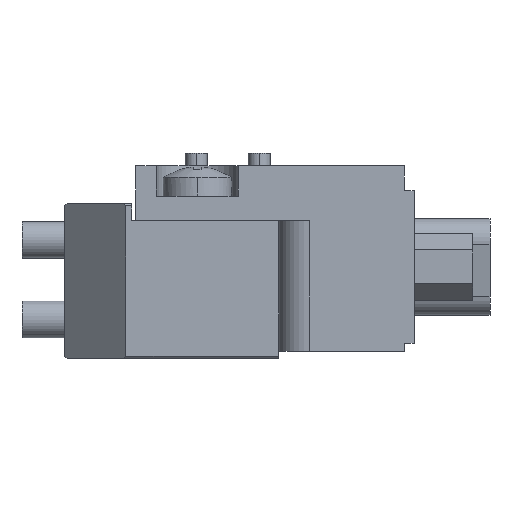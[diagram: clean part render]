
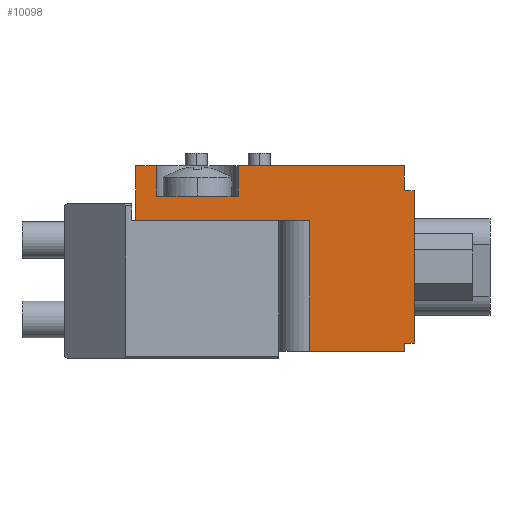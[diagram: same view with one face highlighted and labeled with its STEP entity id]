
A CAD part, left-side view. The second image highlights one B-rep face of the part: STEP entity #10098.
In plain terms, the highlighted planar face has unit normal (-1, 0, 0).
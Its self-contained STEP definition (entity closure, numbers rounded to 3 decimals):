
#32 = EDGE_LOOP ( 'NONE', ( #7946, #4633, #10020, #2968, #7596, #6218, #16519, #19190, #5256, #5812, #16615, #17603, #17454, #11118, #3118, #9269, #1583 ) ) ;
#68 = EDGE_CURVE ( 'NONE', #17962, #9114, #11143, .T. ) ;
#263 = EDGE_CURVE ( 'NONE', #6508, #4982, #10408, .T. ) ;
#626 = VERTEX_POINT ( 'NONE', #18851 ) ;
#642 = VECTOR ( 'NONE', #12589, 1000. ) ;
#709 = EDGE_CURVE ( 'NONE', #5454, #17572, #8656, .T. ) ;
#726 = LINE ( 'NONE', #12656, #642 ) ;
#876 = VERTEX_POINT ( 'NONE', #16703 ) ;
#941 = DIRECTION ( 'NONE',  ( -1., 0., 0. ) ) ;
#1160 = EDGE_CURVE ( 'NONE', #6508, #12593, #6696, .T. ) ;
#1583 = ORIENTED_EDGE ( 'NONE', *, *, #8392, .T. ) ;
#1691 = CARTESIAN_POINT ( 'NONE',  ( -15.15, 5.704, -3.5 ) ) ;
#1731 = EDGE_CURVE ( 'NONE', #5454, #13988, #4936, .T. ) ;
#2074 = DIRECTION ( 'NONE',  ( 0., -1., 0. ) ) ;
#2122 = EDGE_CURVE ( 'NONE', #2219, #13988, #3130, .T. ) ;
#2152 = VECTOR ( 'NONE', #2518, 1000. ) ;
#2182 = CARTESIAN_POINT ( 'NONE',  ( -15.15, 8.15, -3.5 ) ) ;
#2219 = VERTEX_POINT ( 'NONE', #16791 ) ;
#2518 = DIRECTION ( 'NONE',  ( 0., 0., -1. ) ) ;
#2798 = EDGE_CURVE ( 'NONE', #12084, #17572, #726, .T. ) ;
#2968 = ORIENTED_EDGE ( 'NONE', *, *, #14958, .F. ) ;
#3062 = VECTOR ( 'NONE', #16173, 1000. ) ;
#3118 = ORIENTED_EDGE ( 'NONE', *, *, #1731, .T. ) ;
#3130 = LINE ( 'NONE', #8816, #3062 ) ;
#3179 = VERTEX_POINT ( 'NONE', #5379 ) ;
#3790 = CARTESIAN_POINT ( 'NONE',  ( -15.15, -12.95, -16.2 ) ) ;
#3865 = DIRECTION ( 'NONE',  ( 0., 1., 0. ) ) ;
#4123 = DIRECTION ( 'NONE',  ( 0., 1., 0. ) ) ;
#4183 = EDGE_CURVE ( 'NONE', #9114, #626, #13065, .T. ) ;
#4218 = DIRECTION ( 'NONE',  ( 0., 1., 0. ) ) ;
#4231 = LINE ( 'NONE', #12206, #15636 ) ;
#4303 = DIRECTION ( 'NONE',  ( 0., 1., 0. ) ) ;
#4518 = CARTESIAN_POINT ( 'NONE',  ( -15.15, -12.15, -16.2 ) ) ;
#4586 = LINE ( 'NONE', #4518, #13916 ) ;
#4633 = ORIENTED_EDGE ( 'NONE', *, *, #68, .T. ) ;
#4771 = DIRECTION ( 'NONE',  ( 0., -1., 0. ) ) ;
#4807 = VECTOR ( 'NONE', #12641, 1000. ) ;
#4863 = FACE_OUTER_BOUND ( 'NONE', #32, .T. ) ;
#4936 = LINE ( 'NONE', #11828, #4807 ) ;
#4982 = VERTEX_POINT ( 'NONE', #18699 ) ;
#5098 = EDGE_CURVE ( 'NONE', #12526, #9683, #8452, .T. ) ;
#5203 = AXIS2_PLACEMENT_3D ( 'NONE', #9857, #941, #11377 ) ;
#5229 = DIRECTION ( 'NONE',  ( 0., 0., 1. ) ) ;
#5256 = ORIENTED_EDGE ( 'NONE', *, *, #18361, .T. ) ;
#5379 = CARTESIAN_POINT ( 'NONE',  ( -15.15, -12.15, -3.04 ) ) ;
#5411 = DIRECTION ( 'NONE',  ( 0., -1., 0. ) ) ;
#5454 = VERTEX_POINT ( 'NONE', #15711 ) ;
#5474 = EDGE_CURVE ( 'NONE', #12593, #12084, #6394, .T. ) ;
#5647 = CARTESIAN_POINT ( 'NONE',  ( -15.15, 8.15, -16.2 ) ) ;
#5719 = CARTESIAN_POINT ( 'NONE',  ( -15.15, 9.85, -1. ) ) ;
#5729 = VECTOR ( 'NONE', #2074, 1000. ) ;
#5812 = ORIENTED_EDGE ( 'NONE', *, *, #263, .F. ) ;
#5994 = LINE ( 'NONE', #5997, #18728 ) ;
#5997 = CARTESIAN_POINT ( 'NONE',  ( -15.15, -12.15, -3.04 ) ) ;
#6054 = DIRECTION ( 'NONE',  ( 0., 0., 1. ) ) ;
#6189 = LINE ( 'NONE', #6495, #5729 ) ;
#6218 = ORIENTED_EDGE ( 'NONE', *, *, #15439, .T. ) ;
#6359 = VECTOR ( 'NONE', #3865, 1000. ) ;
#6394 = LINE ( 'NONE', #8265, #6359 ) ;
#6495 = CARTESIAN_POINT ( 'NONE',  ( -15.15, 8.15, -5.5 ) ) ;
#6508 = VERTEX_POINT ( 'NONE', #7062 ) ;
#6681 = VECTOR ( 'NONE', #4123, 1000. ) ;
#6696 = LINE ( 'NONE', #7102, #6681 ) ;
#7062 = CARTESIAN_POINT ( 'NONE',  ( -15.15, 1.45, -3.5 ) ) ;
#7102 = CARTESIAN_POINT ( 'NONE',  ( -15.15, 8.15, -3.5 ) ) ;
#7193 = CARTESIAN_POINT ( 'NONE',  ( -15.15, -12.15, -15.54 ) ) ;
#7550 = CARTESIAN_POINT ( 'NONE',  ( -15.15, -4.35, -5.5 ) ) ;
#7596 = ORIENTED_EDGE ( 'NONE', *, *, #5098, .F. ) ;
#7656 = CARTESIAN_POINT ( 'NONE',  ( -15.15, 1.45, -16.2 ) ) ;
#7946 = ORIENTED_EDGE ( 'NONE', *, *, #18651, .T. ) ;
#8176 = CARTESIAN_POINT ( 'NONE',  ( -15.15, 8.15, -16.2 ) ) ;
#8249 = DIRECTION ( 'NONE',  ( 0., 0., -1. ) ) ;
#8265 = CARTESIAN_POINT ( 'NONE',  ( -15.15, 8.15, -3.5 ) ) ;
#8347 = PLANE ( 'NONE',  #5203 ) ;
#8392 = EDGE_CURVE ( 'NONE', #2219, #9277, #4231, .T. ) ;
#8452 = LINE ( 'NONE', #7193, #8486 ) ;
#8486 = VECTOR ( 'NONE', #4218, 1000. ) ;
#8571 = VECTOR ( 'NONE', #8249, 1000. ) ;
#8656 = LINE ( 'NONE', #8176, #8571 ) ;
#8816 = CARTESIAN_POINT ( 'NONE',  ( -15.15, 9.85, -16.2 ) ) ;
#9006 = CARTESIAN_POINT ( 'NONE',  ( -15.15, -12.95, -15.54 ) ) ;
#9049 = LINE ( 'NONE', #3790, #16481 ) ;
#9114 = VERTEX_POINT ( 'NONE', #11519 ) ;
#9132 = CARTESIAN_POINT ( 'NONE',  ( -15.15, 3.896, -3.5 ) ) ;
#9269 = ORIENTED_EDGE ( 'NONE', *, *, #2122, .F. ) ;
#9277 = VERTEX_POINT ( 'NONE', #17832 ) ;
#9683 = VERTEX_POINT ( 'NONE', #19035 ) ;
#9857 = CARTESIAN_POINT ( 'NONE',  ( -15.15, 8.15, -16.2 ) ) ;
#10020 = ORIENTED_EDGE ( 'NONE', *, *, #4183, .T. ) ;
#10098 = ADVANCED_FACE ( 'NONE', ( #4863 ), #8347, .T. ) ;
#10224 = CARTESIAN_POINT ( 'NONE',  ( -15.15, 9.85, -1. ) ) ;
#10383 = VECTOR ( 'NONE', #4303, 1000. ) ;
#10389 = VECTOR ( 'NONE', #6054, 1000. ) ;
#10408 = LINE ( 'NONE', #7656, #10389 ) ;
#10848 = EDGE_CURVE ( 'NONE', #3179, #876, #5994, .T. ) ;
#10997 = VECTOR ( 'NONE', #14622, 1000. ) ;
#11118 = ORIENTED_EDGE ( 'NONE', *, *, #709, .F. ) ;
#11143 = LINE ( 'NONE', #12611, #10997 ) ;
#11377 = DIRECTION ( 'NONE',  ( 0., 0., 1. ) ) ;
#11519 = CARTESIAN_POINT ( 'NONE',  ( -15.15, -4.35, -16.2 ) ) ;
#11828 = CARTESIAN_POINT ( 'NONE',  ( -15.15, 8.15, -1. ) ) ;
#12084 = VERTEX_POINT ( 'NONE', #1691 ) ;
#12206 = CARTESIAN_POINT ( 'NONE',  ( -15.15, 8.15, -5.5 ) ) ;
#12526 = VERTEX_POINT ( 'NONE', #9006 ) ;
#12556 = VERTEX_POINT ( 'NONE', #17942 ) ;
#12589 = DIRECTION ( 'NONE',  ( 0., 1., 0. ) ) ;
#12593 = VERTEX_POINT ( 'NONE', #9132 ) ;
#12611 = CARTESIAN_POINT ( 'NONE',  ( -15.15, -4.35, -16.2 ) ) ;
#12641 = DIRECTION ( 'NONE',  ( 0., 1., 0. ) ) ;
#12656 = CARTESIAN_POINT ( 'NONE',  ( -15.15, 8.15, -3.5 ) ) ;
#13009 = VECTOR ( 'NONE', #5411, 1000. ) ;
#13065 = LINE ( 'NONE', #5647, #13009 ) ;
#13583 = LINE ( 'NONE', #18822, #2152 ) ;
#13916 = VECTOR ( 'NONE', #17872, 1000. ) ;
#13988 = VERTEX_POINT ( 'NONE', #5719 ) ;
#14347 = LINE ( 'NONE', #10224, #10383 ) ;
#14622 = DIRECTION ( 'NONE',  ( 0., 0., -1. ) ) ;
#14921 = DIRECTION ( 'NONE',  ( 0., -1., 0. ) ) ;
#14958 = EDGE_CURVE ( 'NONE', #9683, #626, #13583, .T. ) ;
#15439 = EDGE_CURVE ( 'NONE', #12526, #876, #9049, .T. ) ;
#15636 = VECTOR ( 'NONE', #4771, 1000. ) ;
#15711 = CARTESIAN_POINT ( 'NONE',  ( -15.15, 8.15, -1. ) ) ;
#16173 = DIRECTION ( 'NONE',  ( 0., 0., 1. ) ) ;
#16481 = VECTOR ( 'NONE', #5229, 1000. ) ;
#16519 = ORIENTED_EDGE ( 'NONE', *, *, #10848, .F. ) ;
#16615 = ORIENTED_EDGE ( 'NONE', *, *, #1160, .T. ) ;
#16703 = CARTESIAN_POINT ( 'NONE',  ( -15.15, -12.95, -3.04 ) ) ;
#16791 = CARTESIAN_POINT ( 'NONE',  ( -15.15, 9.85, -5.5 ) ) ;
#17454 = ORIENTED_EDGE ( 'NONE', *, *, #2798, .T. ) ;
#17572 = VERTEX_POINT ( 'NONE', #2182 ) ;
#17603 = ORIENTED_EDGE ( 'NONE', *, *, #5474, .T. ) ;
#17832 = CARTESIAN_POINT ( 'NONE',  ( -15.15, -1.85, -5.5 ) ) ;
#17872 = DIRECTION ( 'NONE',  ( 0., 0., 1. ) ) ;
#17933 = EDGE_CURVE ( 'NONE', #3179, #12556, #4586, .T. ) ;
#17942 = CARTESIAN_POINT ( 'NONE',  ( -15.15, -12.15, -1. ) ) ;
#17962 = VERTEX_POINT ( 'NONE', #7550 ) ;
#18361 = EDGE_CURVE ( 'NONE', #12556, #4982, #14347, .T. ) ;
#18651 = EDGE_CURVE ( 'NONE', #9277, #17962, #6189, .T. ) ;
#18699 = CARTESIAN_POINT ( 'NONE',  ( -15.15, 1.45, -1. ) ) ;
#18728 = VECTOR ( 'NONE', #14921, 1000. ) ;
#18822 = CARTESIAN_POINT ( 'NONE',  ( -15.15, -12.15, -16.2 ) ) ;
#18851 = CARTESIAN_POINT ( 'NONE',  ( -15.15, -12.15, -16.2 ) ) ;
#19035 = CARTESIAN_POINT ( 'NONE',  ( -15.15, -12.15, -15.54 ) ) ;
#19190 = ORIENTED_EDGE ( 'NONE', *, *, #17933, .T. ) ;
